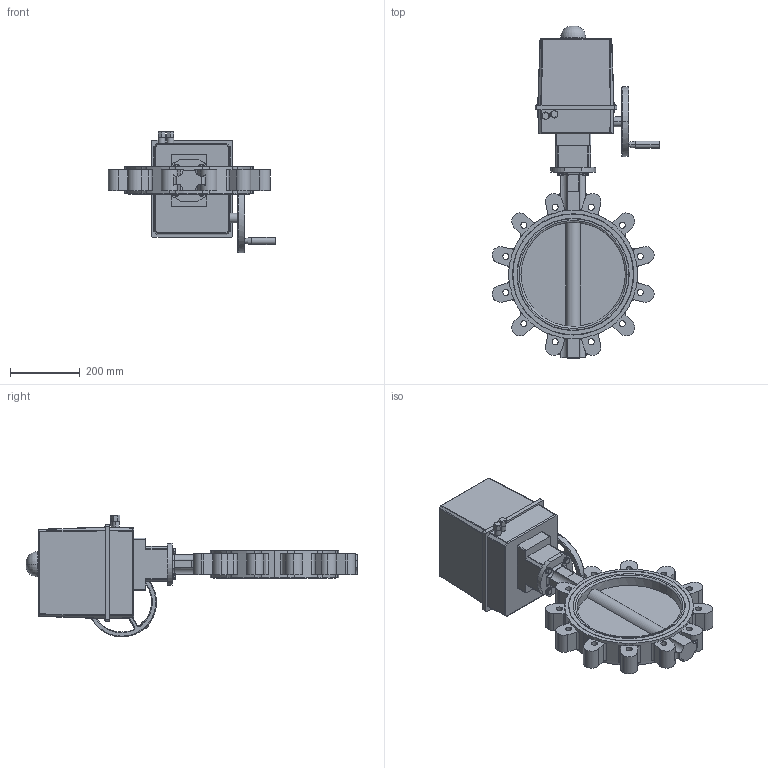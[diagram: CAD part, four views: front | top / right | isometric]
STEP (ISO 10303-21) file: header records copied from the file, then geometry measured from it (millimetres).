
FILE_DESCRIPTION (( 'STEP AP214' ), '1' );
FILE_NAME ('67669.step', '2020-10-26T06:44:55', ( '' ), ( '' ), 'SwSTEP 2.0', 'SolidWorks 2019', '' );
FILE_SCHEMA (( 'AUTOMOTIVE_DESIGN' ));
Length unit declared in the file: millimetre
Products named in the file (6): TL20-0300_M01; PSQ 503_PSQ 503-43-24VDC-F10; 6kt-Schr DIN 933_M10x30; 67669; Steckkupplung PSQ 503-1503_PSQ 503-1503 VK-22; U-Scheibe DIN 125 A_M10
Assembly tree (11 placements, depth 2):
  67669
    TL20-0300_M01
    PSQ 503_PSQ 503-43-24VDC-F10
    Steckkupplung PSQ 503-1503_PSQ 503-1503 VK-22
    6kt-Schr DIN 933_M10x30  x4
    U-Scheibe DIN 125 A_M10  x4
Bounding box: 481.54 x 954 x 350 mm (x, y, z)
Volume: 22985276 mm3; surface area: 1136621.1 mm2
Topology: 11 solids, 11 shells, 920 faces, 2410 edges, 1514 vertices
Faces by surface type: cylinder 429, plane 357, torus 61, cone 53, sphere 16, bspline 4
Entity records: 30033 total; most frequent: CARTESIAN_POINT 5880, DIRECTION 4663, ORIENTED_EDGE 4356, EDGE_CURVE 2178, AXIS2_PLACEMENT_3D 1773, VERTEX_POINT 1394, LINE 1117, VECTOR 1117
